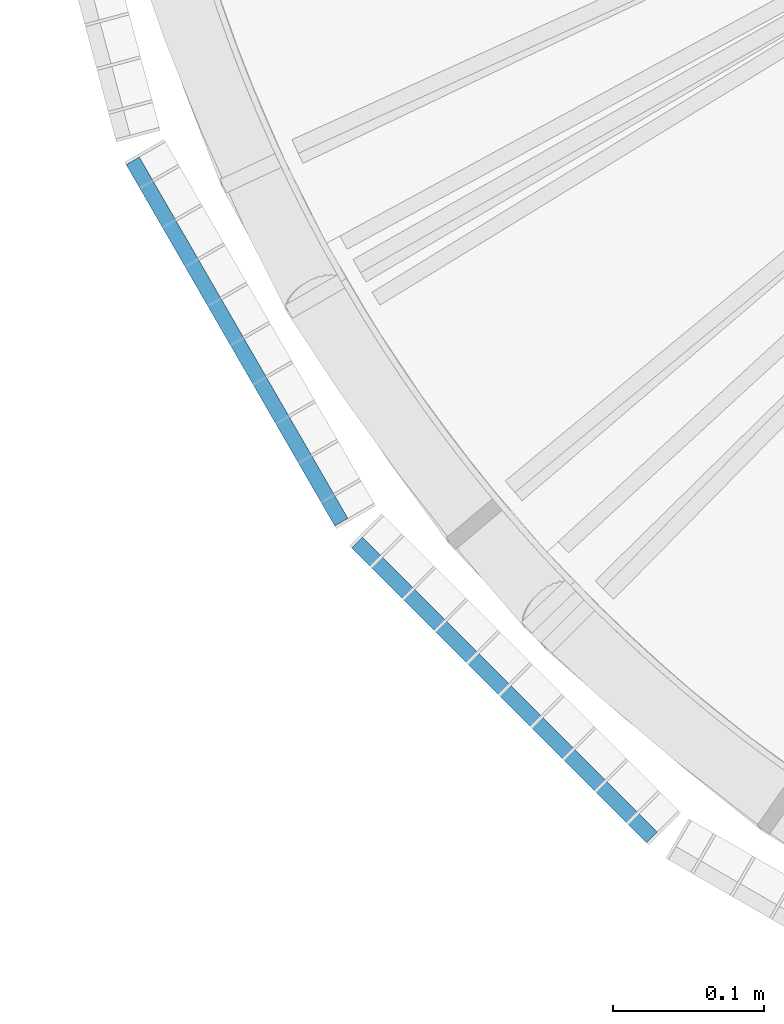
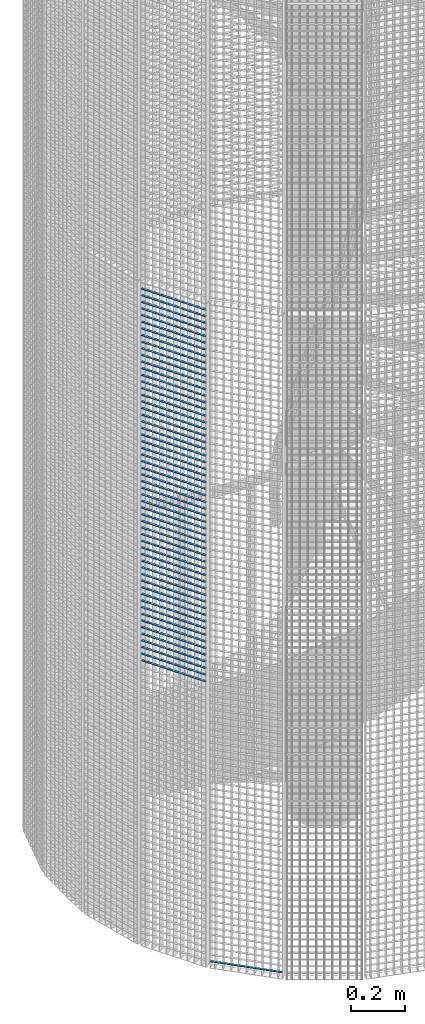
# One storey, part 131 of 1183: 58 beams, 2 elements without a shape of their own.
"""IFC2X3 building model written with IfcOpenShell, lengths in millimetres."""

from ifc_helpers import new_model, si_unit, frame, origin_with_axes, origin_2d_with_axis, place, context, subcontext, project, spatial, rectangle, extrude, material, type_object, element, aggregate, save


model = new_model("IFC2X3")

# Units and contexts
model_context = context("Model", 3, precision=1e-05, world=origin_with_axes())
body_context = subcontext(model_context, "Body", "Model", "MODEL_VIEW")
ifc_project = project(units=[si_unit("LENGTHUNIT", "METRE", prefix="MILLI"), si_unit("AREAUNIT", "SQUARE_METRE"), si_unit("VOLUMEUNIT", "CUBIC_METRE"), si_unit("MASSUNIT", "GRAM", prefix="KILO"), si_unit("TIMEUNIT", "SECOND"), si_unit("PLANEANGLEUNIT", "RADIAN"), si_unit("SOLIDANGLEUNIT", "STERADIAN"), si_unit("THERMODYNAMICTEMPERATUREUNIT", "DEGREE_CELSIUS"), si_unit("LUMINOUSINTENSITYUNIT", "LUMEN")], contexts=[model_context])

# Site, building, storey
site_placement = place(None, origin_with_axes())
site = spatial("IfcSite", under=ifc_project, at=site_placement, Name="Undefined", CompositionType="ELEMENT")
building_placement = place(site_placement, origin_with_axes())
building = spatial("IfcBuilding", under=site, at=building_placement, Name="Undefined", CompositionType="ELEMENT")
storey_placement = place(building_placement, origin_with_axes())
storey = spatial("IfcBuildingStorey", under=building, at=storey_placement, Name="Undefined", CompositionType="ELEMENT", Elevation=0.0)

# Assembly, beam
assembly_1_placement = place(storey_placement, origin_with_axes())
assembly_1 = element("IfcElementAssembly", 1, at=assembly_1_placement, inside=storey, Name="BORDURE", AssemblyPlace="NOTDEFINED", PredefinedType="NOTDEFINED")
ifc_material = material(Name="STEEL/S235JR")
beam_type = type_object("IfcBeamType", Name="PL2*10", PredefinedType="NOTDEFINED")
beam_1_placement = place(assembly_1_placement, frame((-884.92716847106, -689.771348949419, 29.9999999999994), z_axis=(-0.70710678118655, -0.707106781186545, 0.0), x_axis=(0.707106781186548, -0.707106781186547, 0.0)))
beam_1 = element("IfcBeam", 2, at=beam_1_placement, type_object=beam_type, material=ifc_material, Name="ENTRETOISE", context=body_context, shape_type="SweptSolid", body=[
    extrude(rectangle(XDim=2.0, YDim=10.0, at=origin_2d_with_axis()), frame((275.999999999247, 9.09494701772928e-13, 1.53210777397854e-14), z_axis=(-1.0, 0.0, 0.0), x_axis=(0.0, -1.0, 0.0)), (0.0, 0.0, 1.0), 276.0),
])
aggregate(assembly_1, [beam_1])

# Assembly, beams
assembly_2_placement = place(storey_placement, origin_with_axes())
assembly_2 = element("IfcElementAssembly", 3, at=assembly_2_placement, inside=storey, Name="BORDURE", AssemblyPlace="NOTDEFINED", PredefinedType="NOTDEFINED")
beam_2_placement = place(assembly_2_placement, frame((-1033.29996828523, -437.231955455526, 2970.0), z_axis=(-0.866025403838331, -0.499999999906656, 0.0), x_axis=(0.499999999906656, -0.866025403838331, 0.0)))
beam_2 = element("IfcBeam", 4, at=beam_2_placement, type_object=beam_type, material=ifc_material, Name="ENTRETOISE", context=body_context, shape_type="SweptSolid", body=[
    extrude(rectangle(XDim=2.0, YDim=10.0, at=origin_2d_with_axis()), frame((275.999999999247, 9.09494701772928e-13, 1.53210777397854e-14), z_axis=(-1.0, 0.0, 0.0), x_axis=(0.0, -1.0, 0.0)), (0.0, 0.0, 1.0), 276.0),
])
beam_3_placement = place(assembly_2_placement, frame((-1033.29996828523, -437.231955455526, 2940.0), z_axis=(-0.866025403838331, -0.499999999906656, 0.0), x_axis=(0.499999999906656, -0.866025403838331, 0.0)))
beam_3 = element("IfcBeam", 5, at=beam_3_placement, type_object=beam_type, material=ifc_material, Name="ENTRETOISE", context=body_context, shape_type="SweptSolid", body=[
    extrude(rectangle(XDim=2.0, YDim=10.0, at=origin_2d_with_axis()), frame((275.999999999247, 9.09494701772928e-13, 1.53210777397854e-14), z_axis=(-1.0, 0.0, 0.0), x_axis=(0.0, -1.0, 0.0)), (0.0, 0.0, 1.0), 276.0),
])
beam_4_placement = place(assembly_2_placement, frame((-1033.29996828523, -437.231955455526, 2910.0), z_axis=(-0.866025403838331, -0.499999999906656, 0.0), x_axis=(0.499999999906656, -0.866025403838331, 0.0)))
beam_4 = element("IfcBeam", 6, at=beam_4_placement, type_object=beam_type, material=ifc_material, Name="ENTRETOISE", context=body_context, shape_type="SweptSolid", body=[
    extrude(rectangle(XDim=2.0, YDim=10.0, at=origin_2d_with_axis()), frame((275.999999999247, 9.09494701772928e-13, 1.53210777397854e-14), z_axis=(-1.0, 0.0, 0.0), x_axis=(0.0, -1.0, 0.0)), (0.0, 0.0, 1.0), 276.0),
])
beam_5_placement = place(assembly_2_placement, frame((-1033.29996828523, -437.231955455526, 2880.0), z_axis=(-0.866025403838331, -0.499999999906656, 0.0), x_axis=(0.499999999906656, -0.866025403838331, 0.0)))
beam_5 = element("IfcBeam", 7, at=beam_5_placement, type_object=beam_type, material=ifc_material, Name="ENTRETOISE", context=body_context, shape_type="SweptSolid", body=[
    extrude(rectangle(XDim=2.0, YDim=10.0, at=origin_2d_with_axis()), frame((275.999999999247, 9.09494701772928e-13, 1.53210777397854e-14), z_axis=(-1.0, 0.0, 0.0), x_axis=(0.0, -1.0, 0.0)), (0.0, 0.0, 1.0), 276.0),
])
beam_6_placement = place(assembly_2_placement, frame((-1033.29996828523, -437.231955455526, 2850.0), z_axis=(-0.866025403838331, -0.499999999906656, 0.0), x_axis=(0.499999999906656, -0.866025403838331, 0.0)))
beam_6 = element("IfcBeam", 8, at=beam_6_placement, type_object=beam_type, material=ifc_material, Name="ENTRETOISE", context=body_context, shape_type="SweptSolid", body=[
    extrude(rectangle(XDim=2.0, YDim=10.0, at=origin_2d_with_axis()), frame((275.999999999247, 9.09494701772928e-13, 1.53210777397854e-14), z_axis=(-1.0, 0.0, 0.0), x_axis=(0.0, -1.0, 0.0)), (0.0, 0.0, 1.0), 276.0),
])
beam_7_placement = place(assembly_2_placement, frame((-1033.29996828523, -437.231955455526, 2820.0), z_axis=(-0.866025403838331, -0.499999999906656, 0.0), x_axis=(0.499999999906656, -0.866025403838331, 0.0)))
beam_7 = element("IfcBeam", 9, at=beam_7_placement, type_object=beam_type, material=ifc_material, Name="ENTRETOISE", context=body_context, shape_type="SweptSolid", body=[
    extrude(rectangle(XDim=2.0, YDim=10.0, at=origin_2d_with_axis()), frame((275.999999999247, 9.09494701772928e-13, 1.53210777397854e-14), z_axis=(-1.0, 0.0, 0.0), x_axis=(0.0, -1.0, 0.0)), (0.0, 0.0, 1.0), 276.0),
])
beam_8_placement = place(assembly_2_placement, frame((-1033.29996828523, -437.231955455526, 2790.0), z_axis=(-0.866025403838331, -0.499999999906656, 0.0), x_axis=(0.499999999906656, -0.866025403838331, 0.0)))
beam_8 = element("IfcBeam", 10, at=beam_8_placement, type_object=beam_type, material=ifc_material, Name="ENTRETOISE", context=body_context, shape_type="SweptSolid", body=[
    extrude(rectangle(XDim=2.0, YDim=10.0, at=origin_2d_with_axis()), frame((275.999999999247, 9.09494701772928e-13, 1.53210777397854e-14), z_axis=(-1.0, 0.0, 0.0), x_axis=(0.0, -1.0, 0.0)), (0.0, 0.0, 1.0), 276.0),
])
beam_9_placement = place(assembly_2_placement, frame((-1033.29996828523, -437.231955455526, 2760.0), z_axis=(-0.866025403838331, -0.499999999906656, 0.0), x_axis=(0.499999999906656, -0.866025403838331, 0.0)))
beam_9 = element("IfcBeam", 11, at=beam_9_placement, type_object=beam_type, material=ifc_material, Name="ENTRETOISE", context=body_context, shape_type="SweptSolid", body=[
    extrude(rectangle(XDim=2.0, YDim=10.0, at=origin_2d_with_axis()), frame((275.999999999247, 9.09494701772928e-13, 1.53210777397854e-14), z_axis=(-1.0, 0.0, 0.0), x_axis=(0.0, -1.0, 0.0)), (0.0, 0.0, 1.0), 276.0),
])
beam_10_placement = place(assembly_2_placement, frame((-1033.29996828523, -437.231955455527, 2730.0), z_axis=(-0.866025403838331, -0.499999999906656, 0.0), x_axis=(0.499999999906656, -0.866025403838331, 0.0)))
beam_10 = element("IfcBeam", 12, at=beam_10_placement, type_object=beam_type, material=ifc_material, Name="ENTRETOISE", context=body_context, shape_type="SweptSolid", body=[
    extrude(rectangle(XDim=2.0, YDim=10.0, at=origin_2d_with_axis()), frame((275.999999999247, 9.09494701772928e-13, 1.53210777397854e-14), z_axis=(-1.0, 0.0, 0.0), x_axis=(0.0, -1.0, 0.0)), (0.0, 0.0, 1.0), 276.0),
])
beam_11_placement = place(assembly_2_placement, frame((-1033.29996828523, -437.231955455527, 2700.0), z_axis=(-0.866025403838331, -0.499999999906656, 0.0), x_axis=(0.499999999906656, -0.866025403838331, 0.0)))
beam_11 = element("IfcBeam", 13, at=beam_11_placement, type_object=beam_type, material=ifc_material, Name="ENTRETOISE", context=body_context, shape_type="SweptSolid", body=[
    extrude(rectangle(XDim=2.0, YDim=10.0, at=origin_2d_with_axis()), frame((275.999999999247, 9.09494701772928e-13, 1.53210777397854e-14), z_axis=(-1.0, 0.0, 0.0), x_axis=(0.0, -1.0, 0.0)), (0.0, 0.0, 1.0), 276.0),
])
beam_12_placement = place(assembly_2_placement, frame((-1033.29996828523, -437.231955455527, 2670.0), z_axis=(-0.866025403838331, -0.499999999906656, 0.0), x_axis=(0.499999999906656, -0.866025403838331, 0.0)))
beam_12 = element("IfcBeam", 14, at=beam_12_placement, type_object=beam_type, material=ifc_material, Name="ENTRETOISE", context=body_context, shape_type="SweptSolid", body=[
    extrude(rectangle(XDim=2.0, YDim=10.0, at=origin_2d_with_axis()), frame((275.999999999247, 9.09494701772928e-13, 1.53210777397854e-14), z_axis=(-1.0, 0.0, 0.0), x_axis=(0.0, -1.0, 0.0)), (0.0, 0.0, 1.0), 276.0),
])
beam_13_placement = place(assembly_2_placement, frame((-1033.29996828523, -437.231955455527, 2640.0), z_axis=(-0.866025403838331, -0.499999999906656, 0.0), x_axis=(0.499999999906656, -0.866025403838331, 0.0)))
beam_13 = element("IfcBeam", 15, at=beam_13_placement, type_object=beam_type, material=ifc_material, Name="ENTRETOISE", context=body_context, shape_type="SweptSolid", body=[
    extrude(rectangle(XDim=2.0, YDim=10.0, at=origin_2d_with_axis()), frame((275.999999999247, 9.09494701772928e-13, 1.53210777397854e-14), z_axis=(-1.0, 0.0, 0.0), x_axis=(0.0, -1.0, 0.0)), (0.0, 0.0, 1.0), 276.0),
])
beam_14_placement = place(assembly_2_placement, frame((-1033.29996828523, -437.231955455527, 2610.0), z_axis=(-0.866025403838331, -0.499999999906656, 0.0), x_axis=(0.499999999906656, -0.866025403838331, 0.0)))
beam_14 = element("IfcBeam", 16, at=beam_14_placement, type_object=beam_type, material=ifc_material, Name="ENTRETOISE", context=body_context, shape_type="SweptSolid", body=[
    extrude(rectangle(XDim=2.0, YDim=10.0, at=origin_2d_with_axis()), frame((275.999999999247, 9.09494701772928e-13, 1.53210777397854e-14), z_axis=(-1.0, 0.0, 0.0), x_axis=(0.0, -1.0, 0.0)), (0.0, 0.0, 1.0), 276.0),
])
beam_15_placement = place(assembly_2_placement, frame((-1033.29996828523, -437.231955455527, 2580.0), z_axis=(-0.866025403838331, -0.499999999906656, 0.0), x_axis=(0.499999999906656, -0.866025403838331, 0.0)))
beam_15 = element("IfcBeam", 17, at=beam_15_placement, type_object=beam_type, material=ifc_material, Name="ENTRETOISE", context=body_context, shape_type="SweptSolid", body=[
    extrude(rectangle(XDim=2.0, YDim=10.0, at=origin_2d_with_axis()), frame((275.999999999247, 9.09494701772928e-13, 1.53210777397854e-14), z_axis=(-1.0, 0.0, 0.0), x_axis=(0.0, -1.0, 0.0)), (0.0, 0.0, 1.0), 276.0),
])
beam_16_placement = place(assembly_2_placement, frame((-1033.29996828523, -437.231955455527, 2550.0), z_axis=(-0.866025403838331, -0.499999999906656, 0.0), x_axis=(0.499999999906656, -0.866025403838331, 0.0)))
beam_16 = element("IfcBeam", 18, at=beam_16_placement, type_object=beam_type, material=ifc_material, Name="ENTRETOISE", context=body_context, shape_type="SweptSolid", body=[
    extrude(rectangle(XDim=2.0, YDim=10.0, at=origin_2d_with_axis()), frame((275.999999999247, 9.09494701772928e-13, 1.53210777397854e-14), z_axis=(-1.0, 0.0, 0.0), x_axis=(0.0, -1.0, 0.0)), (0.0, 0.0, 1.0), 276.0),
])
beam_17_placement = place(assembly_2_placement, frame((-1033.29996828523, -437.231955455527, 2520.0), z_axis=(-0.866025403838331, -0.499999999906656, 0.0), x_axis=(0.499999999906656, -0.866025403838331, 0.0)))
beam_17 = element("IfcBeam", 19, at=beam_17_placement, type_object=beam_type, material=ifc_material, Name="ENTRETOISE", context=body_context, shape_type="SweptSolid", body=[
    extrude(rectangle(XDim=2.0, YDim=10.0, at=origin_2d_with_axis()), frame((275.999999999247, 9.09494701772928e-13, 1.53210777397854e-14), z_axis=(-1.0, 0.0, 0.0), x_axis=(0.0, -1.0, 0.0)), (0.0, 0.0, 1.0), 276.0),
])
beam_18_placement = place(assembly_2_placement, frame((-1033.29996828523, -437.231955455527, 2490.0), z_axis=(-0.866025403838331, -0.499999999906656, 0.0), x_axis=(0.499999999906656, -0.866025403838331, 0.0)))
beam_18 = element("IfcBeam", 20, at=beam_18_placement, type_object=beam_type, material=ifc_material, Name="ENTRETOISE", context=body_context, shape_type="SweptSolid", body=[
    extrude(rectangle(XDim=2.0, YDim=10.0, at=origin_2d_with_axis()), frame((275.999999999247, 9.09494701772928e-13, 1.53210777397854e-14), z_axis=(-1.0, 0.0, 0.0), x_axis=(0.0, -1.0, 0.0)), (0.0, 0.0, 1.0), 276.0),
])
beam_19_placement = place(assembly_2_placement, frame((-1033.29996828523, -437.231955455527, 2460.0), z_axis=(-0.866025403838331, -0.499999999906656, 0.0), x_axis=(0.499999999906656, -0.866025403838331, 0.0)))
beam_19 = element("IfcBeam", 21, at=beam_19_placement, type_object=beam_type, material=ifc_material, Name="ENTRETOISE", context=body_context, shape_type="SweptSolid", body=[
    extrude(rectangle(XDim=2.0, YDim=10.0, at=origin_2d_with_axis()), frame((275.999999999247, 9.09494701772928e-13, 1.53210777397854e-14), z_axis=(-1.0, 0.0, 0.0), x_axis=(0.0, -1.0, 0.0)), (0.0, 0.0, 1.0), 276.0),
])
beam_20_placement = place(assembly_2_placement, frame((-1033.29996828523, -437.231955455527, 2430.0), z_axis=(-0.866025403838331, -0.499999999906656, 0.0), x_axis=(0.499999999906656, -0.866025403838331, 0.0)))
beam_20 = element("IfcBeam", 22, at=beam_20_placement, type_object=beam_type, material=ifc_material, Name="ENTRETOISE", context=body_context, shape_type="SweptSolid", body=[
    extrude(rectangle(XDim=2.0, YDim=10.0, at=origin_2d_with_axis()), frame((275.999999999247, 9.09494701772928e-13, 1.53210777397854e-14), z_axis=(-1.0, 0.0, 0.0), x_axis=(0.0, -1.0, 0.0)), (0.0, 0.0, 1.0), 276.0),
])
beam_21_placement = place(assembly_2_placement, frame((-1033.29996828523, -437.231955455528, 2400.0), z_axis=(-0.866025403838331, -0.499999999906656, 0.0), x_axis=(0.499999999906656, -0.866025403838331, 0.0)))
beam_21 = element("IfcBeam", 23, at=beam_21_placement, type_object=beam_type, material=ifc_material, Name="ENTRETOISE", context=body_context, shape_type="SweptSolid", body=[
    extrude(rectangle(XDim=2.0, YDim=10.0, at=origin_2d_with_axis()), frame((275.999999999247, 9.09494701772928e-13, 1.53210777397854e-14), z_axis=(-1.0, 0.0, 0.0), x_axis=(0.0, -1.0, 0.0)), (0.0, 0.0, 1.0), 276.0),
])
beam_22_placement = place(assembly_2_placement, frame((-1033.29996828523, -437.231955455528, 2370.0), z_axis=(-0.866025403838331, -0.499999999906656, 0.0), x_axis=(0.499999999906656, -0.866025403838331, 0.0)))
beam_22 = element("IfcBeam", 24, at=beam_22_placement, type_object=beam_type, material=ifc_material, Name="ENTRETOISE", context=body_context, shape_type="SweptSolid", body=[
    extrude(rectangle(XDim=2.0, YDim=10.0, at=origin_2d_with_axis()), frame((275.999999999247, 9.09494701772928e-13, 1.53210777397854e-14), z_axis=(-1.0, 0.0, 0.0), x_axis=(0.0, -1.0, 0.0)), (0.0, 0.0, 1.0), 276.0),
])
beam_23_placement = place(assembly_2_placement, frame((-1033.29996828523, -437.231955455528, 2340.0), z_axis=(-0.866025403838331, -0.499999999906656, 0.0), x_axis=(0.499999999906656, -0.866025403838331, 0.0)))
beam_23 = element("IfcBeam", 25, at=beam_23_placement, type_object=beam_type, material=ifc_material, Name="ENTRETOISE", context=body_context, shape_type="SweptSolid", body=[
    extrude(rectangle(XDim=2.0, YDim=10.0, at=origin_2d_with_axis()), frame((275.999999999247, 9.09494701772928e-13, 1.53210777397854e-14), z_axis=(-1.0, 0.0, 0.0), x_axis=(0.0, -1.0, 0.0)), (0.0, 0.0, 1.0), 276.0),
])
beam_24_placement = place(assembly_2_placement, frame((-1033.29996828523, -437.231955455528, 2310.0), z_axis=(-0.866025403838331, -0.499999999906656, 0.0), x_axis=(0.499999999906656, -0.866025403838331, 0.0)))
beam_24 = element("IfcBeam", 26, at=beam_24_placement, type_object=beam_type, material=ifc_material, Name="ENTRETOISE", context=body_context, shape_type="SweptSolid", body=[
    extrude(rectangle(XDim=2.0, YDim=10.0, at=origin_2d_with_axis()), frame((275.999999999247, 9.09494701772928e-13, 1.53210777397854e-14), z_axis=(-1.0, 0.0, 0.0), x_axis=(0.0, -1.0, 0.0)), (0.0, 0.0, 1.0), 276.0),
])
beam_25_placement = place(assembly_2_placement, frame((-1033.29996828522, -437.231955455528, 2280.0), z_axis=(-0.866025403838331, -0.499999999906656, 0.0), x_axis=(0.499999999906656, -0.866025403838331, 0.0)))
beam_25 = element("IfcBeam", 27, at=beam_25_placement, type_object=beam_type, material=ifc_material, Name="ENTRETOISE", context=body_context, shape_type="SweptSolid", body=[
    extrude(rectangle(XDim=2.0, YDim=10.0, at=origin_2d_with_axis()), frame((275.999999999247, 9.09494701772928e-13, 1.53210777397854e-14), z_axis=(-1.0, 0.0, 0.0), x_axis=(0.0, -1.0, 0.0)), (0.0, 0.0, 1.0), 276.0),
])
beam_26_placement = place(assembly_2_placement, frame((-1033.29996828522, -437.231955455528, 2250.0), z_axis=(-0.866025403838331, -0.499999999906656, 0.0), x_axis=(0.499999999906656, -0.866025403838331, 0.0)))
beam_26 = element("IfcBeam", 28, at=beam_26_placement, type_object=beam_type, material=ifc_material, Name="ENTRETOISE", context=body_context, shape_type="SweptSolid", body=[
    extrude(rectangle(XDim=2.0, YDim=10.0, at=origin_2d_with_axis()), frame((275.999999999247, 9.09494701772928e-13, 1.53210777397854e-14), z_axis=(-1.0, 0.0, 0.0), x_axis=(0.0, -1.0, 0.0)), (0.0, 0.0, 1.0), 276.0),
])
beam_27_placement = place(assembly_2_placement, frame((-1033.29996828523, -437.231955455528, 2220.0), z_axis=(-0.866025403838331, -0.499999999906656, 0.0), x_axis=(0.499999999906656, -0.866025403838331, 0.0)))
beam_27 = element("IfcBeam", 29, at=beam_27_placement, type_object=beam_type, material=ifc_material, Name="ENTRETOISE", context=body_context, shape_type="SweptSolid", body=[
    extrude(rectangle(XDim=2.0, YDim=10.0, at=origin_2d_with_axis()), frame((275.999999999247, 9.09494701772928e-13, 1.53210777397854e-14), z_axis=(-1.0, 0.0, 0.0), x_axis=(0.0, -1.0, 0.0)), (0.0, 0.0, 1.0), 276.0),
])
beam_28_placement = place(assembly_2_placement, frame((-1033.29996828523, -437.231955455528, 2190.0), z_axis=(-0.866025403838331, -0.499999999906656, 0.0), x_axis=(0.499999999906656, -0.866025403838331, 0.0)))
beam_28 = element("IfcBeam", 30, at=beam_28_placement, type_object=beam_type, material=ifc_material, Name="ENTRETOISE", context=body_context, shape_type="SweptSolid", body=[
    extrude(rectangle(XDim=2.0, YDim=10.0, at=origin_2d_with_axis()), frame((275.999999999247, 9.09494701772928e-13, 1.53210777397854e-14), z_axis=(-1.0, 0.0, 0.0), x_axis=(0.0, -1.0, 0.0)), (0.0, 0.0, 1.0), 276.0),
])
beam_29_placement = place(assembly_2_placement, frame((-1033.29996828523, -437.231955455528, 2160.0), z_axis=(-0.866025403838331, -0.499999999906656, 0.0), x_axis=(0.499999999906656, -0.866025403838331, 0.0)))
beam_29 = element("IfcBeam", 31, at=beam_29_placement, type_object=beam_type, material=ifc_material, Name="ENTRETOISE", context=body_context, shape_type="SweptSolid", body=[
    extrude(rectangle(XDim=2.0, YDim=10.0, at=origin_2d_with_axis()), frame((275.999999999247, 9.09494701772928e-13, 1.53210777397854e-14), z_axis=(-1.0, 0.0, 0.0), x_axis=(0.0, -1.0, 0.0)), (0.0, 0.0, 1.0), 276.0),
])
beam_30_placement = place(assembly_2_placement, frame((-1033.29996828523, -437.231955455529, 2130.0), z_axis=(-0.866025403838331, -0.499999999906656, 0.0), x_axis=(0.499999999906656, -0.866025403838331, 0.0)))
beam_30 = element("IfcBeam", 32, at=beam_30_placement, type_object=beam_type, material=ifc_material, Name="ENTRETOISE", context=body_context, shape_type="SweptSolid", body=[
    extrude(rectangle(XDim=2.0, YDim=10.0, at=origin_2d_with_axis()), frame((275.999999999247, 9.09494701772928e-13, 1.53210777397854e-14), z_axis=(-1.0, 0.0, 0.0), x_axis=(0.0, -1.0, 0.0)), (0.0, 0.0, 1.0), 276.0),
])
beam_31_placement = place(assembly_2_placement, frame((-1033.29996828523, -437.231955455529, 2100.0), z_axis=(-0.866025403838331, -0.499999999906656, 0.0), x_axis=(0.499999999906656, -0.866025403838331, 0.0)))
beam_31 = element("IfcBeam", 33, at=beam_31_placement, type_object=beam_type, material=ifc_material, Name="ENTRETOISE", context=body_context, shape_type="SweptSolid", body=[
    extrude(rectangle(XDim=2.0, YDim=10.0, at=origin_2d_with_axis()), frame((275.999999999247, 9.09494701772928e-13, 1.53210777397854e-14), z_axis=(-1.0, 0.0, 0.0), x_axis=(0.0, -1.0, 0.0)), (0.0, 0.0, 1.0), 276.0),
])
beam_32_placement = place(assembly_2_placement, frame((-1033.29996828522, -437.231955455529, 2070.0), z_axis=(-0.866025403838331, -0.499999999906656, 0.0), x_axis=(0.499999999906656, -0.866025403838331, 0.0)))
beam_32 = element("IfcBeam", 34, at=beam_32_placement, type_object=beam_type, material=ifc_material, Name="ENTRETOISE", context=body_context, shape_type="SweptSolid", body=[
    extrude(rectangle(XDim=2.0, YDim=10.0, at=origin_2d_with_axis()), frame((275.999999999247, 9.09494701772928e-13, 1.53210777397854e-14), z_axis=(-1.0, 0.0, 0.0), x_axis=(0.0, -1.0, 0.0)), (0.0, 0.0, 1.0), 276.0),
])
beam_33_placement = place(assembly_2_placement, frame((-1033.29996828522, -437.231955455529, 2040.0), z_axis=(-0.866025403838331, -0.499999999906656, 0.0), x_axis=(0.499999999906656, -0.866025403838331, 0.0)))
beam_33 = element("IfcBeam", 35, at=beam_33_placement, type_object=beam_type, material=ifc_material, Name="ENTRETOISE", context=body_context, shape_type="SweptSolid", body=[
    extrude(rectangle(XDim=2.0, YDim=10.0, at=origin_2d_with_axis()), frame((275.999999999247, 9.09494701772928e-13, 1.53210777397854e-14), z_axis=(-1.0, 0.0, 0.0), x_axis=(0.0, -1.0, 0.0)), (0.0, 0.0, 1.0), 276.0),
])
beam_34_placement = place(assembly_2_placement, frame((-1033.29996828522, -437.231955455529, 2010.0), z_axis=(-0.866025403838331, -0.499999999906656, 0.0), x_axis=(0.499999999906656, -0.866025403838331, 0.0)))
beam_34 = element("IfcBeam", 36, at=beam_34_placement, type_object=beam_type, material=ifc_material, Name="ENTRETOISE", context=body_context, shape_type="SweptSolid", body=[
    extrude(rectangle(XDim=2.0, YDim=10.0, at=origin_2d_with_axis()), frame((275.999999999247, 9.09494701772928e-13, 1.53210777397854e-14), z_axis=(-1.0, 0.0, 0.0), x_axis=(0.0, -1.0, 0.0)), (0.0, 0.0, 1.0), 276.0),
])
beam_35_placement = place(assembly_2_placement, frame((-1033.29996828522, -437.231955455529, 1980.0), z_axis=(-0.866025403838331, -0.499999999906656, 0.0), x_axis=(0.499999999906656, -0.866025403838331, 0.0)))
beam_35 = element("IfcBeam", 37, at=beam_35_placement, type_object=beam_type, material=ifc_material, Name="ENTRETOISE", context=body_context, shape_type="SweptSolid", body=[
    extrude(rectangle(XDim=2.0, YDim=10.0, at=origin_2d_with_axis()), frame((275.999999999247, 9.09494701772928e-13, 1.53210777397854e-14), z_axis=(-1.0, 0.0, 0.0), x_axis=(0.0, -1.0, 0.0)), (0.0, 0.0, 1.0), 276.0),
])
beam_36_placement = place(assembly_2_placement, frame((-1033.29996828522, -437.231955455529, 1950.0), z_axis=(-0.866025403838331, -0.499999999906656, 0.0), x_axis=(0.499999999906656, -0.866025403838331, 0.0)))
beam_36 = element("IfcBeam", 38, at=beam_36_placement, type_object=beam_type, material=ifc_material, Name="ENTRETOISE", context=body_context, shape_type="SweptSolid", body=[
    extrude(rectangle(XDim=2.0, YDim=10.0, at=origin_2d_with_axis()), frame((275.999999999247, 9.09494701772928e-13, 1.53210777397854e-14), z_axis=(-1.0, 0.0, 0.0), x_axis=(0.0, -1.0, 0.0)), (0.0, 0.0, 1.0), 276.0),
])
beam_37_placement = place(assembly_2_placement, frame((-1033.29996828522, -437.231955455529, 1920.0), z_axis=(-0.866025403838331, -0.499999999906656, 0.0), x_axis=(0.499999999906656, -0.866025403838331, 0.0)))
beam_37 = element("IfcBeam", 39, at=beam_37_placement, type_object=beam_type, material=ifc_material, Name="ENTRETOISE", context=body_context, shape_type="SweptSolid", body=[
    extrude(rectangle(XDim=2.0, YDim=10.0, at=origin_2d_with_axis()), frame((275.999999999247, 9.09494701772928e-13, 1.53210777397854e-14), z_axis=(-1.0, 0.0, 0.0), x_axis=(0.0, -1.0, 0.0)), (0.0, 0.0, 1.0), 276.0),
])
beam_38_placement = place(assembly_2_placement, frame((-1033.29996828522, -437.231955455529, 1890.0), z_axis=(-0.866025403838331, -0.499999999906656, 0.0), x_axis=(0.499999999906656, -0.866025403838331, 0.0)))
beam_38 = element("IfcBeam", 40, at=beam_38_placement, type_object=beam_type, material=ifc_material, Name="ENTRETOISE", context=body_context, shape_type="SweptSolid", body=[
    extrude(rectangle(XDim=2.0, YDim=10.0, at=origin_2d_with_axis()), frame((275.999999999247, 9.09494701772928e-13, 1.53210777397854e-14), z_axis=(-1.0, 0.0, 0.0), x_axis=(0.0, -1.0, 0.0)), (0.0, 0.0, 1.0), 276.0),
])
beam_39_placement = place(assembly_2_placement, frame((-1033.29996828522, -437.23195545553, 1860.0), z_axis=(-0.866025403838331, -0.499999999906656, 0.0), x_axis=(0.499999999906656, -0.866025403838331, 0.0)))
beam_39 = element("IfcBeam", 41, at=beam_39_placement, type_object=beam_type, material=ifc_material, Name="ENTRETOISE", context=body_context, shape_type="SweptSolid", body=[
    extrude(rectangle(XDim=2.0, YDim=10.0, at=origin_2d_with_axis()), frame((275.999999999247, 9.09494701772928e-13, 1.53210777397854e-14), z_axis=(-1.0, 0.0, 0.0), x_axis=(0.0, -1.0, 0.0)), (0.0, 0.0, 1.0), 276.0),
])
beam_40_placement = place(assembly_2_placement, frame((-1033.29996828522, -437.23195545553, 1830.0), z_axis=(-0.866025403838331, -0.499999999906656, 0.0), x_axis=(0.499999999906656, -0.866025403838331, 0.0)))
beam_40 = element("IfcBeam", 42, at=beam_40_placement, type_object=beam_type, material=ifc_material, Name="ENTRETOISE", context=body_context, shape_type="SweptSolid", body=[
    extrude(rectangle(XDim=2.0, YDim=10.0, at=origin_2d_with_axis()), frame((275.999999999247, 9.09494701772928e-13, 1.53210777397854e-14), z_axis=(-1.0, 0.0, 0.0), x_axis=(0.0, -1.0, 0.0)), (0.0, 0.0, 1.0), 276.0),
])
beam_41_placement = place(assembly_2_placement, frame((-1033.29996828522, -437.23195545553, 1800.0), z_axis=(-0.866025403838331, -0.499999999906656, 0.0), x_axis=(0.499999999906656, -0.866025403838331, 0.0)))
beam_41 = element("IfcBeam", 43, at=beam_41_placement, type_object=beam_type, material=ifc_material, Name="ENTRETOISE", context=body_context, shape_type="SweptSolid", body=[
    extrude(rectangle(XDim=2.0, YDim=10.0, at=origin_2d_with_axis()), frame((275.999999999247, 9.09494701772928e-13, 1.53210777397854e-14), z_axis=(-1.0, 0.0, 0.0), x_axis=(0.0, -1.0, 0.0)), (0.0, 0.0, 1.0), 276.0),
])
beam_42_placement = place(assembly_2_placement, frame((-1033.29996828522, -437.23195545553, 1770.0), z_axis=(-0.866025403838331, -0.499999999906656, 0.0), x_axis=(0.499999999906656, -0.866025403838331, 0.0)))
beam_42 = element("IfcBeam", 44, at=beam_42_placement, type_object=beam_type, material=ifc_material, Name="ENTRETOISE", context=body_context, shape_type="SweptSolid", body=[
    extrude(rectangle(XDim=2.0, YDim=10.0, at=origin_2d_with_axis()), frame((275.999999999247, 9.09494701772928e-13, 1.53210777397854e-14), z_axis=(-1.0, 0.0, 0.0), x_axis=(0.0, -1.0, 0.0)), (0.0, 0.0, 1.0), 276.0),
])
beam_43_placement = place(assembly_2_placement, frame((-1033.29996828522, -437.23195545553, 1740.0), z_axis=(-0.866025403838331, -0.499999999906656, 0.0), x_axis=(0.499999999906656, -0.866025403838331, 0.0)))
beam_43 = element("IfcBeam", 45, at=beam_43_placement, type_object=beam_type, material=ifc_material, Name="ENTRETOISE", context=body_context, shape_type="SweptSolid", body=[
    extrude(rectangle(XDim=2.0, YDim=10.0, at=origin_2d_with_axis()), frame((275.999999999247, 9.09494701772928e-13, 1.53210777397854e-14), z_axis=(-1.0, 0.0, 0.0), x_axis=(0.0, -1.0, 0.0)), (0.0, 0.0, 1.0), 276.0),
])
beam_44_placement = place(assembly_2_placement, frame((-1033.29996828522, -437.23195545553, 1710.0), z_axis=(-0.866025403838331, -0.499999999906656, 0.0), x_axis=(0.499999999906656, -0.866025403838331, 0.0)))
beam_44 = element("IfcBeam", 46, at=beam_44_placement, type_object=beam_type, material=ifc_material, Name="ENTRETOISE", context=body_context, shape_type="SweptSolid", body=[
    extrude(rectangle(XDim=2.0, YDim=10.0, at=origin_2d_with_axis()), frame((275.999999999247, 9.09494701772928e-13, 1.53210777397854e-14), z_axis=(-1.0, 0.0, 0.0), x_axis=(0.0, -1.0, 0.0)), (0.0, 0.0, 1.0), 276.0),
])
beam_45_placement = place(assembly_2_placement, frame((-1033.29996828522, -437.23195545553, 1680.0), z_axis=(-0.866025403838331, -0.499999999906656, 0.0), x_axis=(0.499999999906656, -0.866025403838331, 0.0)))
beam_45 = element("IfcBeam", 47, at=beam_45_placement, type_object=beam_type, material=ifc_material, Name="ENTRETOISE", context=body_context, shape_type="SweptSolid", body=[
    extrude(rectangle(XDim=2.0, YDim=10.0, at=origin_2d_with_axis()), frame((275.999999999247, 9.09494701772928e-13, 1.53210777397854e-14), z_axis=(-1.0, 0.0, 0.0), x_axis=(0.0, -1.0, 0.0)), (0.0, 0.0, 1.0), 276.0),
])
beam_46_placement = place(assembly_2_placement, frame((-1033.29996828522, -437.23195545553, 1650.0), z_axis=(-0.866025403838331, -0.499999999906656, 0.0), x_axis=(0.499999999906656, -0.866025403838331, 0.0)))
beam_46 = element("IfcBeam", 48, at=beam_46_placement, type_object=beam_type, material=ifc_material, Name="ENTRETOISE", context=body_context, shape_type="SweptSolid", body=[
    extrude(rectangle(XDim=2.0, YDim=10.0, at=origin_2d_with_axis()), frame((275.999999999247, 9.09494701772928e-13, 1.53210777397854e-14), z_axis=(-1.0, 0.0, 0.0), x_axis=(0.0, -1.0, 0.0)), (0.0, 0.0, 1.0), 276.0),
])
beam_47_placement = place(assembly_2_placement, frame((-1033.29996828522, -437.23195545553, 1620.0), z_axis=(-0.866025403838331, -0.499999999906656, 0.0), x_axis=(0.499999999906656, -0.866025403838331, 0.0)))
beam_47 = element("IfcBeam", 49, at=beam_47_placement, type_object=beam_type, material=ifc_material, Name="ENTRETOISE", context=body_context, shape_type="SweptSolid", body=[
    extrude(rectangle(XDim=2.0, YDim=10.0, at=origin_2d_with_axis()), frame((275.999999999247, 9.09494701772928e-13, 1.53210777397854e-14), z_axis=(-1.0, 0.0, 0.0), x_axis=(0.0, -1.0, 0.0)), (0.0, 0.0, 1.0), 276.0),
])
beam_48_placement = place(assembly_2_placement, frame((-1033.29996828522, -437.23195545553, 1590.0), z_axis=(-0.866025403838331, -0.499999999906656, 0.0), x_axis=(0.499999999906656, -0.866025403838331, 0.0)))
beam_48 = element("IfcBeam", 50, at=beam_48_placement, type_object=beam_type, material=ifc_material, Name="ENTRETOISE", context=body_context, shape_type="SweptSolid", body=[
    extrude(rectangle(XDim=2.0, YDim=10.0, at=origin_2d_with_axis()), frame((275.999999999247, 9.09494701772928e-13, 1.53210777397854e-14), z_axis=(-1.0, 0.0, 0.0), x_axis=(0.0, -1.0, 0.0)), (0.0, 0.0, 1.0), 276.0),
])
beam_49_placement = place(assembly_2_placement, frame((-1033.29996828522, -437.23195545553, 1560.0), z_axis=(-0.866025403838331, -0.499999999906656, 0.0), x_axis=(0.499999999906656, -0.866025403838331, 0.0)))
beam_49 = element("IfcBeam", 51, at=beam_49_placement, type_object=beam_type, material=ifc_material, Name="ENTRETOISE", context=body_context, shape_type="SweptSolid", body=[
    extrude(rectangle(XDim=2.0, YDim=10.0, at=origin_2d_with_axis()), frame((275.999999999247, 9.09494701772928e-13, 1.53210777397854e-14), z_axis=(-1.0, 0.0, 0.0), x_axis=(0.0, -1.0, 0.0)), (0.0, 0.0, 1.0), 276.0),
])
beam_50_placement = place(assembly_2_placement, frame((-1033.29996828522, -437.23195545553, 1530.0), z_axis=(-0.866025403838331, -0.499999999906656, 0.0), x_axis=(0.499999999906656, -0.866025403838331, 0.0)))
beam_50 = element("IfcBeam", 52, at=beam_50_placement, type_object=beam_type, material=ifc_material, Name="ENTRETOISE", context=body_context, shape_type="SweptSolid", body=[
    extrude(rectangle(XDim=2.0, YDim=10.0, at=origin_2d_with_axis()), frame((275.999999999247, 9.09494701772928e-13, 1.53210777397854e-14), z_axis=(-1.0, 0.0, 0.0), x_axis=(0.0, -1.0, 0.0)), (0.0, 0.0, 1.0), 276.0),
])
beam_51_placement = place(assembly_2_placement, frame((-1033.29996828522, -437.231955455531, 1500.0), z_axis=(-0.866025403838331, -0.499999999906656, 0.0), x_axis=(0.499999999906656, -0.866025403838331, 0.0)))
beam_51 = element("IfcBeam", 53, at=beam_51_placement, type_object=beam_type, material=ifc_material, Name="ENTRETOISE", context=body_context, shape_type="SweptSolid", body=[
    extrude(rectangle(XDim=2.0, YDim=10.0, at=origin_2d_with_axis()), frame((275.999999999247, 9.09494701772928e-13, 1.53210777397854e-14), z_axis=(-1.0, 0.0, 0.0), x_axis=(0.0, -1.0, 0.0)), (0.0, 0.0, 1.0), 276.0),
])
beam_52_placement = place(assembly_2_placement, frame((-1033.29996828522, -437.231955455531, 1470.0), z_axis=(-0.866025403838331, -0.499999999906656, 0.0), x_axis=(0.499999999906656, -0.866025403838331, 0.0)))
beam_52 = element("IfcBeam", 54, at=beam_52_placement, type_object=beam_type, material=ifc_material, Name="ENTRETOISE", context=body_context, shape_type="SweptSolid", body=[
    extrude(rectangle(XDim=2.0, YDim=10.0, at=origin_2d_with_axis()), frame((275.999999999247, 9.09494701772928e-13, 1.53210777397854e-14), z_axis=(-1.0, 0.0, 0.0), x_axis=(0.0, -1.0, 0.0)), (0.0, 0.0, 1.0), 276.0),
])
beam_53_placement = place(assembly_2_placement, frame((-1033.29996828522, -437.231955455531, 1440.0), z_axis=(-0.866025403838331, -0.499999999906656, 0.0), x_axis=(0.499999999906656, -0.866025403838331, 0.0)))
beam_53 = element("IfcBeam", 55, at=beam_53_placement, type_object=beam_type, material=ifc_material, Name="ENTRETOISE", context=body_context, shape_type="SweptSolid", body=[
    extrude(rectangle(XDim=2.0, YDim=10.0, at=origin_2d_with_axis()), frame((275.999999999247, 9.09494701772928e-13, 1.53210777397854e-14), z_axis=(-1.0, 0.0, 0.0), x_axis=(0.0, -1.0, 0.0)), (0.0, 0.0, 1.0), 276.0),
])
beam_54_placement = place(assembly_2_placement, frame((-1033.29996828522, -437.231955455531, 1410.0), z_axis=(-0.866025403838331, -0.499999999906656, 0.0), x_axis=(0.499999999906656, -0.866025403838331, 0.0)))
beam_54 = element("IfcBeam", 56, at=beam_54_placement, type_object=beam_type, material=ifc_material, Name="ENTRETOISE", context=body_context, shape_type="SweptSolid", body=[
    extrude(rectangle(XDim=2.0, YDim=10.0, at=origin_2d_with_axis()), frame((275.999999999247, 9.09494701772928e-13, 1.53210777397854e-14), z_axis=(-1.0, 0.0, 0.0), x_axis=(0.0, -1.0, 0.0)), (0.0, 0.0, 1.0), 276.0),
])
beam_55_placement = place(assembly_2_placement, frame((-1033.29996828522, -437.231955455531, 1380.0), z_axis=(-0.866025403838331, -0.499999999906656, 0.0), x_axis=(0.499999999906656, -0.866025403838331, 0.0)))
beam_55 = element("IfcBeam", 57, at=beam_55_placement, type_object=beam_type, material=ifc_material, Name="ENTRETOISE", context=body_context, shape_type="SweptSolid", body=[
    extrude(rectangle(XDim=2.0, YDim=10.0, at=origin_2d_with_axis()), frame((275.999999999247, 9.09494701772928e-13, 1.53210777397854e-14), z_axis=(-1.0, 0.0, 0.0), x_axis=(0.0, -1.0, 0.0)), (0.0, 0.0, 1.0), 276.0),
])
beam_56_placement = place(assembly_2_placement, frame((-1033.29996828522, -437.231955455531, 1350.0), z_axis=(-0.866025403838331, -0.499999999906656, 0.0), x_axis=(0.499999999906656, -0.866025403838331, 0.0)))
beam_56 = element("IfcBeam", 58, at=beam_56_placement, type_object=beam_type, material=ifc_material, Name="ENTRETOISE", context=body_context, shape_type="SweptSolid", body=[
    extrude(rectangle(XDim=2.0, YDim=10.0, at=origin_2d_with_axis()), frame((275.999999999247, 9.09494701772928e-13, 1.53210777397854e-14), z_axis=(-1.0, 0.0, 0.0), x_axis=(0.0, -1.0, 0.0)), (0.0, 0.0, 1.0), 276.0),
])
beam_57_placement = place(assembly_2_placement, frame((-1033.29996828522, -437.231955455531, 1320.0), z_axis=(-0.866025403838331, -0.499999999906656, 0.0), x_axis=(0.499999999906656, -0.866025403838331, 0.0)))
beam_57 = element("IfcBeam", 59, at=beam_57_placement, type_object=beam_type, material=ifc_material, Name="ENTRETOISE", context=body_context, shape_type="SweptSolid", body=[
    extrude(rectangle(XDim=2.0, YDim=10.0, at=origin_2d_with_axis()), frame((275.999999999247, 9.09494701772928e-13, 1.53210777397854e-14), z_axis=(-1.0, 0.0, 0.0), x_axis=(0.0, -1.0, 0.0)), (0.0, 0.0, 1.0), 276.0),
])
beam_58_placement = place(assembly_2_placement, frame((-1033.29996828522, -437.231955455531, 1290.0), z_axis=(-0.866025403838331, -0.499999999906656, 0.0), x_axis=(0.499999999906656, -0.866025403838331, 0.0)))
beam_58 = element("IfcBeam", 60, at=beam_58_placement, type_object=beam_type, material=ifc_material, Name="ENTRETOISE", context=body_context, shape_type="SweptSolid", body=[
    extrude(rectangle(XDim=2.0, YDim=10.0, at=origin_2d_with_axis()), frame((275.999999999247, 9.09494701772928e-13, 1.53210777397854e-14), z_axis=(-1.0, 0.0, 0.0), x_axis=(0.0, -1.0, 0.0)), (0.0, 0.0, 1.0), 276.0),
])
aggregate(assembly_2, [beam_2, beam_3, beam_4, beam_5, beam_6, beam_7, beam_8, beam_9, beam_10, beam_11, beam_12, beam_13, beam_14, beam_15, beam_16, beam_17, beam_18, beam_19, beam_20, beam_21, beam_22, beam_23, beam_24, beam_25, beam_26, beam_27, beam_28, beam_29, beam_30, beam_31, beam_32, beam_33, beam_34, beam_35, beam_36, beam_37, beam_38, beam_39, beam_40, beam_41, beam_42, beam_43, beam_44, beam_45, beam_46, beam_47, beam_48, beam_49, beam_50, beam_51, beam_52, beam_53, beam_54, beam_55, beam_56, beam_57, beam_58])

save(model, "model.ifc")
